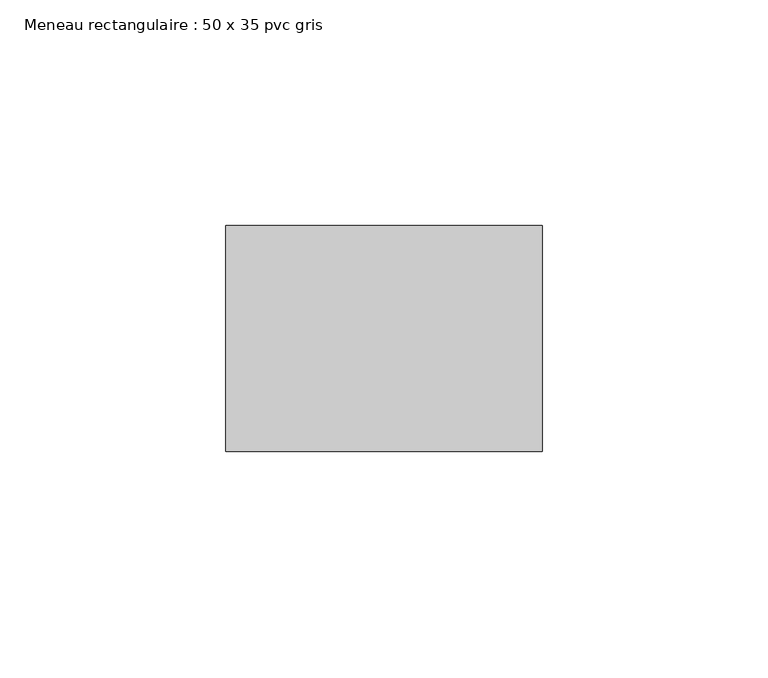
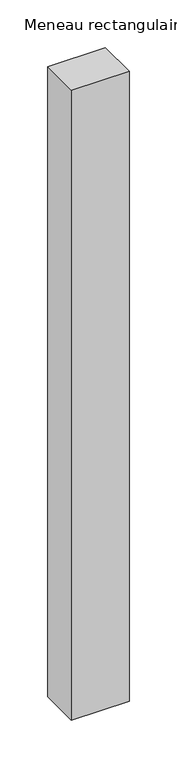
"""IFC4 building model written with IfcOpenShell, lengths in millimetres: member geometry, Meneau rectangulaire : 50 x 35 pvc gris."""

from ifc_helpers import new_model, si_unit, frame, origin, place, context, project, spatial, polyline, outline, extrude, source, transform, mapped, element, save


def meneau_rectangulaire_50_x_35_pvc_gris_5878e712(model_context):
    return source(origin(), model_context, "Body", "SweptSolid", [
        extrude(outline(polyline([(35.0, 0.0), (35.0, -50.0), (-35.0, -50.0), (-35.0, 0.0), (35.0, 0.0)])), frame((0.0, 0.0, -808.0), z_axis=(0.0, 0.0, 1.0), x_axis=(1.0, 0.0, 0.0)), (0.0, 0.0, 1.0), 808.0),
    ])


if __name__ == "__main__":
    model = new_model("IFC4")
    model_context = context("Model", 3, world=origin())
    ifc_project = project(units=[si_unit("LENGTHUNIT", "METRE", prefix="MILLI")], contexts=[model_context])
    site = spatial("IfcSite", under=ifc_project)
    building = spatial("IfcBuilding", under=site)
    placement = place(None, origin())
    meneau_rectangulaire_50_x_35_pvc_gris_shape = meneau_rectangulaire_50_x_35_pvc_gris_5878e712(model_context)
    element("IfcMember", 1, ObjectType="Meneau rectangulaire : 50 x 35 pvc gris", at=placement, inside=building, context=model_context, shape_type="MappedRepresentation", body=[
        mapped(meneau_rectangulaire_50_x_35_pvc_gris_shape, transform((0.0, 0.0, 0.0), x_axis=(1.0, 0.0, 0.0), y_axis=(0.0, 1.0, 0.0), z_axis=(0.0, 0.0, 1.0))),
    ])
    save(model, "model.ifc")
